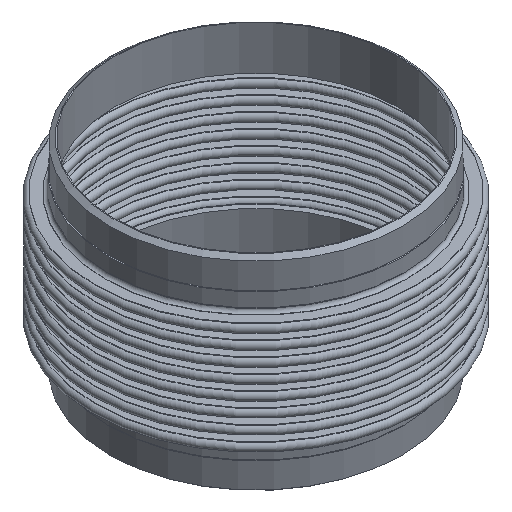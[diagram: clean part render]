
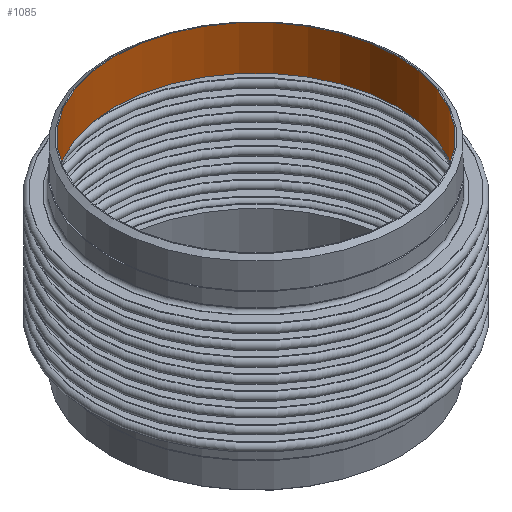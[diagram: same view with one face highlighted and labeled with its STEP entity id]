
A CAD part, isometric view. The second image highlights one B-rep face of the part: STEP entity #1085.
In plain terms, the highlighted cylindrical face has radius 244.475 mm (diameter 488.95 mm), a full revolution.
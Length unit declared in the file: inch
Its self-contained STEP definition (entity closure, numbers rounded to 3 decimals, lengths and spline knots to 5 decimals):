
#57=LINE('',#2002,#65);
#65=VECTOR('',#1710,9.625);
#71=CYLINDRICAL_SURFACE('',#1304,9.625);
#188=FACE_OUTER_BOUND('',#305,.T.);
#305=EDGE_LOOP('',(#882,#883,#884,#885));
#424=CIRCLE('',#1303,9.625);
#425=CIRCLE('',#1305,9.625);
#508=VERTEX_POINT('',#1997);
#509=VERTEX_POINT('',#2000);
#633=EDGE_CURVE('',#508,#508,#424,.T.);
#634=EDGE_CURVE('',#509,#509,#425,.T.);
#635=EDGE_CURVE('',#509,#508,#57,.T.);
#882=ORIENTED_EDGE('',*,*,#634,.F.);
#883=ORIENTED_EDGE('',*,*,#635,.T.);
#884=ORIENTED_EDGE('',*,*,#633,.F.);
#885=ORIENTED_EDGE('',*,*,#635,.F.);
#1085=ADVANCED_FACE('',(#188),#71,.F.);
#1303=AXIS2_PLACEMENT_3D('',#1998,#1704,#1705);
#1304=AXIS2_PLACEMENT_3D('',#1999,#1706,#1707);
#1305=AXIS2_PLACEMENT_3D('',#2001,#1708,#1709);
#1704=DIRECTION('center_axis',(0.,0.,-1.));
#1705=DIRECTION('ref_axis',(-1.,0.,0.));
#1706=DIRECTION('center_axis',(0.,0.,1.));
#1707=DIRECTION('ref_axis',(-1.,0.,0.));
#1708=DIRECTION('center_axis',(0.,0.,1.));
#1709=DIRECTION('ref_axis',(-1.,0.,0.));
#1710=DIRECTION('',(0.,0.,1.));
#1997=CARTESIAN_POINT('',(9.625,0.,1.5));
#1998=CARTESIAN_POINT('Origin',(0.,0.,1.5));
#1999=CARTESIAN_POINT('Origin',(0.,0.,0.));
#2000=CARTESIAN_POINT('',(9.625,0.,-1.5));
#2001=CARTESIAN_POINT('Origin',(0.,0.,-1.5));
#2002=CARTESIAN_POINT('',(9.625,0.,0.));
